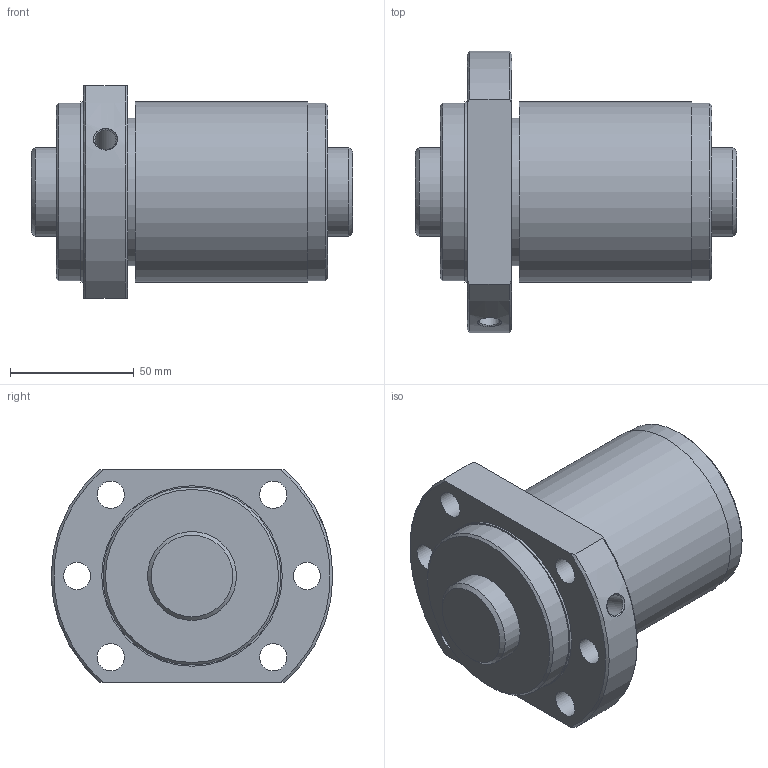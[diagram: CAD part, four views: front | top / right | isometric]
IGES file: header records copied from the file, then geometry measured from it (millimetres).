
Start section: Data from Parasolid IGES Translator 26.0.171, Copyright(c) 2006 Siemens PLM Software. All Rights Reserved.
Global section: file name: SBK3620-7.6RRG0+130LC0(0000).igs; native system: By Siemens PLM Incorporated; preprocessor: XPlus GENERIC/IGES 26.0.171; author: Noname; organization: Noname; date: 20240528.112006; units: millimetre
Bounding box: 130 x 114 x 86 mm (x, y, z)
Surface area: 77121.8 mm2 (no closed solid volume)
Topology: 0 solids, 0 shells, 37 faces, 167 edges, 143 vertices
Faces by surface type: revolution 26, extrusion 11
